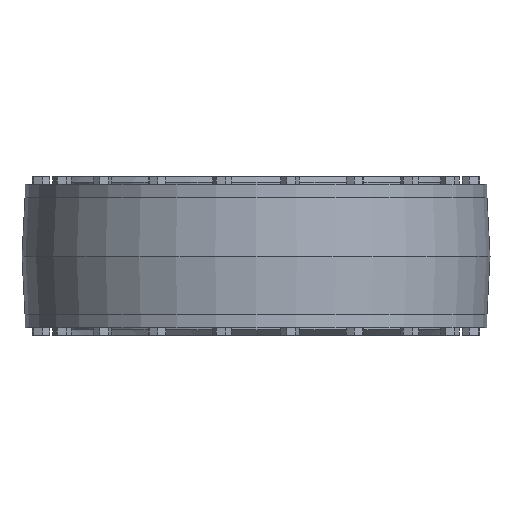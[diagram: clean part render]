
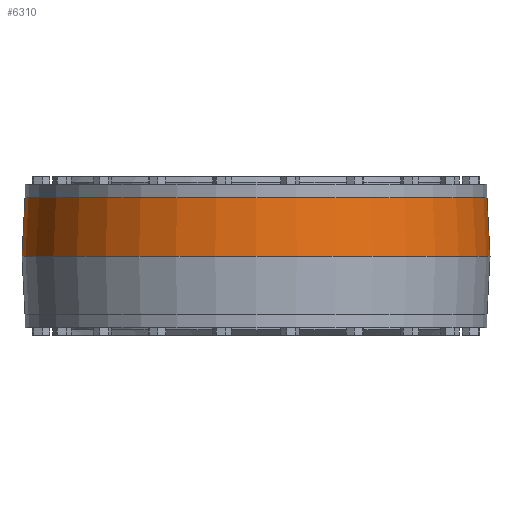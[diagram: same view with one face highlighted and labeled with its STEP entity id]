
A CAD part, front view. The second image highlights one B-rep face of the part: STEP entity #6310.
In plain terms, the highlighted conical face has half-angle 3 degrees and reference radius 274.85 mm.
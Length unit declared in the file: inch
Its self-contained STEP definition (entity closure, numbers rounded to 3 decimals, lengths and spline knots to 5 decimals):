
#66=CONICAL_SURFACE('',#6723,10.82088,0.052);
#196=CIRCLE('',#6721,10.75);
#197=CIRCLE('',#6722,10.75);
#198=CIRCLE('',#6724,10.89176);
#199=CIRCLE('',#6725,10.89176);
#514=FACE_OUTER_BOUND('',#885,.T.);
#885=EDGE_LOOP('',(#5365,#5366,#5367,#5368,#5369,#5370));
#1626=LINE('',#9988,#2367);
#2367=VECTOR('',#8267,10.82088);
#2922=VERTEX_POINT('',#9978);
#2923=VERTEX_POINT('',#9979);
#2924=VERTEX_POINT('',#9984);
#2925=VERTEX_POINT('',#9985);
#3737=EDGE_CURVE('',#2922,#2923,#196,.T.);
#3738=EDGE_CURVE('',#2923,#2922,#197,.T.);
#3740=EDGE_CURVE('',#2924,#2925,#198,.T.);
#3741=EDGE_CURVE('',#2925,#2924,#199,.T.);
#3742=EDGE_CURVE('',#2925,#2923,#1626,.T.);
#5365=ORIENTED_EDGE('',*,*,#3740,.F.);
#5366=ORIENTED_EDGE('',*,*,#3741,.F.);
#5367=ORIENTED_EDGE('',*,*,#3742,.T.);
#5368=ORIENTED_EDGE('',*,*,#3738,.T.);
#5369=ORIENTED_EDGE('',*,*,#3737,.T.);
#5370=ORIENTED_EDGE('',*,*,#3742,.F.);
#6310=ADVANCED_FACE('',(#514),#66,.T.);
#6721=AXIS2_PLACEMENT_3D('',#9980,#8256,#8257);
#6722=AXIS2_PLACEMENT_3D('',#9981,#8258,#8259);
#6723=AXIS2_PLACEMENT_3D('',#9983,#8261,#8262);
#6724=AXIS2_PLACEMENT_3D('',#9986,#8263,#8264);
#6725=AXIS2_PLACEMENT_3D('',#9987,#8265,#8266);
#8256=DIRECTION('center_axis',(0.,0.,-1.));
#8257=DIRECTION('ref_axis',(1.,0.,0.));
#8258=DIRECTION('center_axis',(0.,0.,-1.));
#8259=DIRECTION('ref_axis',(1.,0.,0.));
#8261=DIRECTION('center_axis',(0.,0.,-1.));
#8262=DIRECTION('ref_axis',(0.,1.,0.));
#8263=DIRECTION('center_axis',(0.,0.,-1.));
#8264=DIRECTION('ref_axis',(1.,0.,0.));
#8265=DIRECTION('center_axis',(0.,0.,-1.));
#8266=DIRECTION('ref_axis',(1.,0.,0.));
#8267=DIRECTION('',(0.,0.052,0.999));
#9978=CARTESIAN_POINT('',(0.,10.75,2.705));
#9979=CARTESIAN_POINT('',(0.,-10.75,2.705));
#9980=CARTESIAN_POINT('Origin',(0.,0.,2.705));
#9981=CARTESIAN_POINT('Origin',(0.,0.,2.705));
#9983=CARTESIAN_POINT('Origin',(0.,0.,1.3525));
#9984=CARTESIAN_POINT('',(0.,10.89176,0.));
#9985=CARTESIAN_POINT('',(0.,-10.89176,0.));
#9986=CARTESIAN_POINT('Origin',(0.,0.,0.));
#9987=CARTESIAN_POINT('Origin',(0.,0.,0.));
#9988=CARTESIAN_POINT('',(0.,-10.82088,1.3525));
